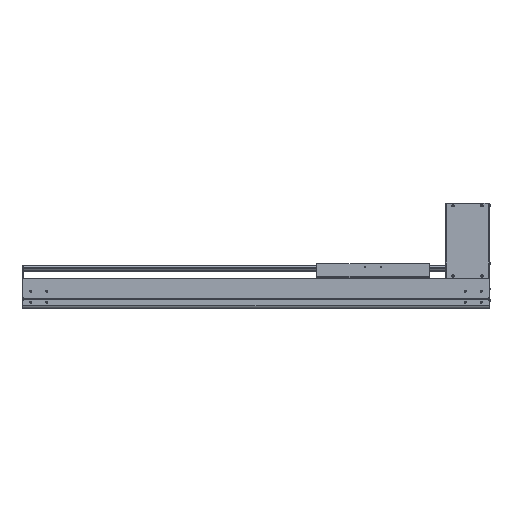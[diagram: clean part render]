
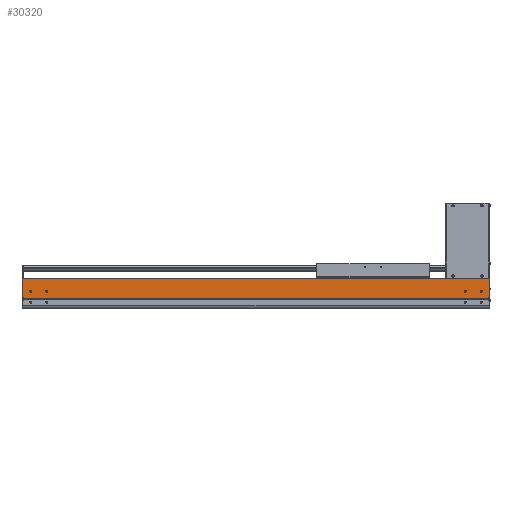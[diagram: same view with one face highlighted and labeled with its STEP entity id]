
A CAD part, top view. The second image highlights one B-rep face of the part: STEP entity #30320.
In plain terms, the highlighted planar face has unit normal (0, 0, 1).
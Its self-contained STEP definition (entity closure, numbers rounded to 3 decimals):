
#595=CARTESIAN_POINT('',(0.,94.,107.));
#8368=DIRECTION('',(-1.,0.,0.));
#8369=VECTOR('',#8368,1448.5);
#8370=CARTESIAN_POINT('',(0.,93.5,107.));
#8371=LINE('',#8370,#8369);
#8398=CARTESIAN_POINT('',(-1423.5,54.,107.));
#8399=DIRECTION('',(0.,0.,-1.));
#8400=DIRECTION('',(1.,0.,0.));
#8401=AXIS2_PLACEMENT_3D('',#8398,#8399,#8400);
#8403=CARTESIAN_POINT('',(-1423.5,54.,107.));
#8404=DIRECTION('',(0.,0.,-1.));
#8405=DIRECTION('',(-1.,0.,0.));
#8406=AXIS2_PLACEMENT_3D('',#8403,#8404,#8405);
#8408=CARTESIAN_POINT('',(-1373.5,54.,107.));
#8409=DIRECTION('',(0.,0.,-1.));
#8410=DIRECTION('',(1.,0.,0.));
#8411=AXIS2_PLACEMENT_3D('',#8408,#8409,#8410);
#8413=CARTESIAN_POINT('',(-1373.5,54.,107.));
#8414=DIRECTION('',(0.,0.,-1.));
#8415=DIRECTION('',(-1.,0.,0.));
#8416=AXIS2_PLACEMENT_3D('',#8413,#8414,#8415);
#8418=CARTESIAN_POINT('',(-23.5,54.,107.));
#8419=DIRECTION('',(0.,0.,-1.));
#8420=DIRECTION('',(1.,0.,0.));
#8421=AXIS2_PLACEMENT_3D('',#8418,#8419,#8420);
#8423=CARTESIAN_POINT('',(-23.5,54.,107.));
#8424=DIRECTION('',(0.,0.,-1.));
#8425=DIRECTION('',(-1.,0.,0.));
#8426=AXIS2_PLACEMENT_3D('',#8423,#8424,#8425);
#8428=CARTESIAN_POINT('',(-73.5,54.,107.));
#8429=DIRECTION('',(0.,0.,-1.));
#8430=DIRECTION('',(1.,0.,0.));
#8431=AXIS2_PLACEMENT_3D('',#8428,#8429,#8430);
#8433=CARTESIAN_POINT('',(-73.5,54.,107.));
#8434=DIRECTION('',(0.,0.,-1.));
#8435=DIRECTION('',(-1.,0.,0.));
#8436=AXIS2_PLACEMENT_3D('',#8433,#8434,#8435);
#8438=DIRECTION('',(0.,-1.,0.));
#8439=VECTOR('',#8438,2.55);
#8440=CARTESIAN_POINT('',(-1446.5,34.65,107.));
#8441=LINE('',#8440,#8439);
#8442=DIRECTION('',(0.,-1.,0.));
#8443=VECTOR('',#8442,58.85);
#8444=CARTESIAN_POINT('',(-1448.5,93.5,107.));
#8445=LINE('',#8444,#8443);
#8446=DIRECTION('',(0.,-1.,0.));
#8447=VECTOR('',#8446,0.5);
#8448=CARTESIAN_POINT('',(0.,94.,107.));
#8449=LINE('',#8448,#8447);
#8450=DIRECTION('',(0.,1.,0.));
#8451=VECTOR('',#8450,58.35);
#8452=CARTESIAN_POINT('',(1.5,35.65,107.));
#8453=LINE('',#8452,#8451);
#8454=DIRECTION('',(0.,1.,0.));
#8455=VECTOR('',#8454,3.55);
#8456=CARTESIAN_POINT('',(0.,32.1,107.));
#8457=LINE('',#8456,#8455);
#8458=DIRECTION('',(1.,0.,0.));
#8459=VECTOR('',#8458,1446.5);
#8460=CARTESIAN_POINT('',(-1446.5,32.1,107.));
#8461=LINE('',#8460,#8459);
#8570=DIRECTION('',(1.,0.,0.));
#8571=VECTOR('',#8570,2.);
#8572=CARTESIAN_POINT('',(-1448.5,34.65,107.));
#8573=LINE('',#8572,#8571);
#8598=DIRECTION('',(-1.,0.,0.));
#8599=VECTOR('',#8598,1.5);
#8600=CARTESIAN_POINT('',(1.5,94.,107.));
#8601=LINE('',#8600,#8599);
#8602=DIRECTION('',(1.,0.,0.));
#8603=VECTOR('',#8602,1.5);
#8604=CARTESIAN_POINT('',(0.,35.65,107.));
#8605=LINE('',#8604,#8603);
#15710=CARTESIAN_POINT('',(1.5,94.,107.));
#15711=VERTEX_POINT('',#15710);
#15712=CARTESIAN_POINT('',(1.5,35.65,107.));
#15713=VERTEX_POINT('',#15712);
#15754=VERTEX_POINT('',#595);
#15786=CARTESIAN_POINT('',(-1448.5,34.65,107.));
#15787=VERTEX_POINT('',#15786);
#15788=CARTESIAN_POINT('',(-1448.5,93.5,107.));
#15789=VERTEX_POINT('',#15788);
#16014=CARTESIAN_POINT('',(-1446.5,32.1,107.));
#16015=VERTEX_POINT('',#16014);
#16065=CARTESIAN_POINT('',(0.,32.1,107.));
#16067=VERTEX_POINT('',#16065);
#16532=CARTESIAN_POINT('',(-1421.,54.,107.));
#16533=CARTESIAN_POINT('',(-1426.,54.,107.));
#16534=VERTEX_POINT('',#16532);
#16535=VERTEX_POINT('',#16533);
#16536=CARTESIAN_POINT('',(-1371.,54.,107.));
#16537=CARTESIAN_POINT('',(-1376.,54.,107.));
#16538=VERTEX_POINT('',#16536);
#16539=VERTEX_POINT('',#16537);
#16540=CARTESIAN_POINT('',(-21.,54.,107.));
#16541=CARTESIAN_POINT('',(-26.,54.,107.));
#16542=VERTEX_POINT('',#16540);
#16543=VERTEX_POINT('',#16541);
#16544=CARTESIAN_POINT('',(-71.,54.,107.));
#16545=CARTESIAN_POINT('',(-76.,54.,107.));
#16546=VERTEX_POINT('',#16544);
#16547=VERTEX_POINT('',#16545);
#18498=CARTESIAN_POINT('',(0.,35.65,107.));
#18499=VERTEX_POINT('',#18498);
#18744=CARTESIAN_POINT('',(0.,93.5,107.));
#18745=VERTEX_POINT('',#18744);
#19087=CARTESIAN_POINT('',(-1446.5,34.65,107.));
#19088=VERTEX_POINT('',#19087);
#30275=CARTESIAN_POINT('',(-723.25,62.8,107.));
#30276=DIRECTION('',(0.,0.,1.));
#30277=DIRECTION('',(0.,-1.,0.));
#30278=AXIS2_PLACEMENT_3D('',#30275,#30276,#30277);
#30279=PLANE('',#30278);
#30280=ORIENTED_EDGE('',*,*,#21262,.F.);
#30282=ORIENTED_EDGE('',*,*,#30281,.F.);
#30283=ORIENTED_EDGE('',*,*,#27893,.F.);
#30284=ORIENTED_EDGE('',*,*,#30264,.F.);
#30285=ORIENTED_EDGE('',*,*,#20375,.F.);
#30287=ORIENTED_EDGE('',*,*,#30286,.F.);
#30288=ORIENTED_EDGE('',*,*,#22261,.F.);
#30290=ORIENTED_EDGE('',*,*,#30289,.F.);
#30291=ORIENTED_EDGE('',*,*,#22023,.F.);
#30293=ORIENTED_EDGE('',*,*,#30292,.F.);
#30294=EDGE_LOOP('',(#30280,#30282,#30283,#30284,#30285,#30287,#30288,#30290,
#30291,#30293));
#30295=FACE_OUTER_BOUND('',#30294,.F.);
#30297=ORIENTED_EDGE('',*,*,#30296,.F.);
#30299=ORIENTED_EDGE('',*,*,#30298,.F.);
#30300=EDGE_LOOP('',(#30297,#30299));
#30301=FACE_BOUND('',#30300,.F.);
#30303=ORIENTED_EDGE('',*,*,#30302,.F.);
#30305=ORIENTED_EDGE('',*,*,#30304,.F.);
#30306=EDGE_LOOP('',(#30303,#30305));
#30307=FACE_BOUND('',#30306,.F.);
#30309=ORIENTED_EDGE('',*,*,#30308,.F.);
#30311=ORIENTED_EDGE('',*,*,#30310,.F.);
#30312=EDGE_LOOP('',(#30309,#30311));
#30313=FACE_BOUND('',#30312,.F.);
#30315=ORIENTED_EDGE('',*,*,#30314,.F.);
#30317=ORIENTED_EDGE('',*,*,#30316,.F.);
#30318=EDGE_LOOP('',(#30315,#30317));
#30319=FACE_BOUND('',#30318,.F.);
#30320=ADVANCED_FACE('',(#30295,#30301,#30307,#30313,#30319),#30279,.T.);
#8402=CIRCLE('',#8401,2.5);
#8407=CIRCLE('',#8406,2.5);
#8412=CIRCLE('',#8411,2.5);
#8417=CIRCLE('',#8416,2.5);
#8422=CIRCLE('',#8421,2.5);
#8427=CIRCLE('',#8426,2.5);
#8432=CIRCLE('',#8431,2.5);
#8437=CIRCLE('',#8436,2.5);
#20375=EDGE_CURVE('',#15754,#18745,#8449,.T.);
#21262=EDGE_CURVE('',#19088,#16015,#8441,.T.);
#22023=EDGE_CURVE('',#16067,#18499,#8457,.T.);
#22261=EDGE_CURVE('',#15713,#15711,#8453,.T.);
#27893=EDGE_CURVE('',#15789,#15787,#8445,.T.);
#30264=EDGE_CURVE('',#18745,#15789,#8371,.T.);
#30281=EDGE_CURVE('',#15787,#19088,#8573,.T.);
#30286=EDGE_CURVE('',#15711,#15754,#8601,.T.);
#30289=EDGE_CURVE('',#18499,#15713,#8605,.T.);
#30292=EDGE_CURVE('',#16015,#16067,#8461,.T.);
#30296=EDGE_CURVE('',#16538,#16539,#8412,.T.);
#30298=EDGE_CURVE('',#16539,#16538,#8417,.T.);
#30302=EDGE_CURVE('',#16542,#16543,#8422,.T.);
#30304=EDGE_CURVE('',#16543,#16542,#8427,.T.);
#30308=EDGE_CURVE('',#16546,#16547,#8432,.T.);
#30310=EDGE_CURVE('',#16547,#16546,#8437,.T.);
#30314=EDGE_CURVE('',#16534,#16535,#8402,.T.);
#30316=EDGE_CURVE('',#16535,#16534,#8407,.T.);
